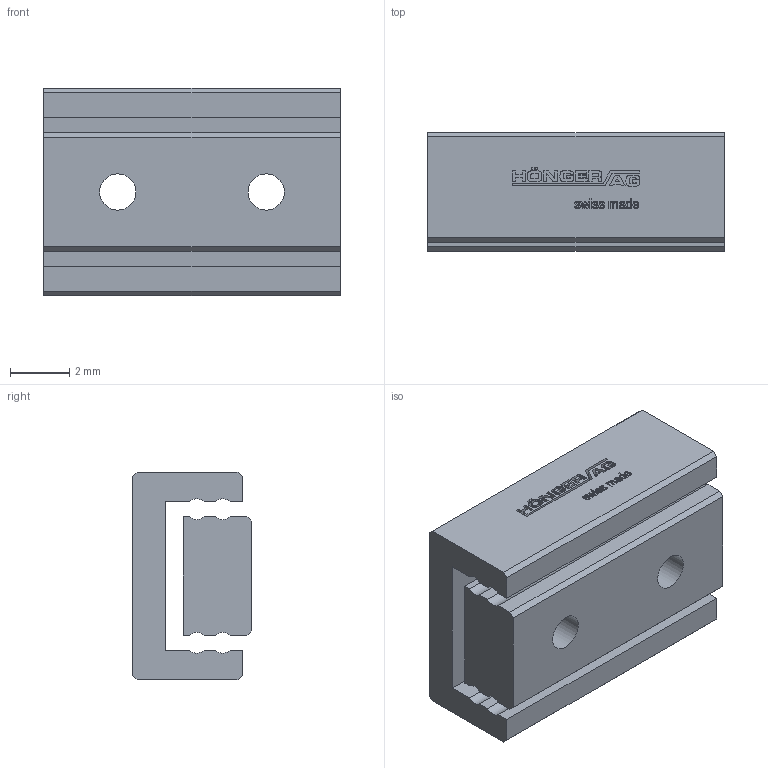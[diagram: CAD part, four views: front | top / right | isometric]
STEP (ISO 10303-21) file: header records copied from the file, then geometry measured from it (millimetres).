
FILE_DESCRIPTION(/* description */ ('STEP AP214'),/* implementation_level */ '2;1');
FILE_NAME(/* name */ 'MSK 4-10.06(0)',/* time_stamp */ '2025-04-16T16:43:29+02:00',/* author */ ('License CC BY-ND 4.0'),/* organization */ ('CADENAS'),/* preprocessor_version */ 'ST-DEVELOPER v19.3',/* originating_system */ 'PARTsolutions',/* authorisation */ ' ');
FILE_SCHEMA (('AUTOMOTIVE_DESIGN {1 0 10303 214 3 1 1}'));
Length unit declared in the file: millimetre
Products named in the file (3): MSK 4-10.06(0); MSK 4-10.06_1; MSK 4-10.06_2
Assembly tree (2 placements, depth 2):
  MSK 4-10.06(0)
    MSK 4-10.06_1
    MSK 4-10.06_2
Bounding box: 10 x 4 x 7 mm (x, y, z)
Volume: 209.2 mm3; surface area: 458.9 mm2
Topology: 2 solids, 2 shells, 509 faces, 1432 edges, 954 vertices
Faces by surface type: cylinder 304, plane 203, cone 2
Full cylindrical faces by diameter (mm): 1.221 x4
Entity records: 16741 total; most frequent: DIRECTION 3060, CARTESIAN_POINT 2892, ORIENTED_EDGE 2852, EDGE_CURVE 1426, AXIS2_PLACEMENT_3D 1122, VERTEX_POINT 954, LINE 816, VECTOR 816
